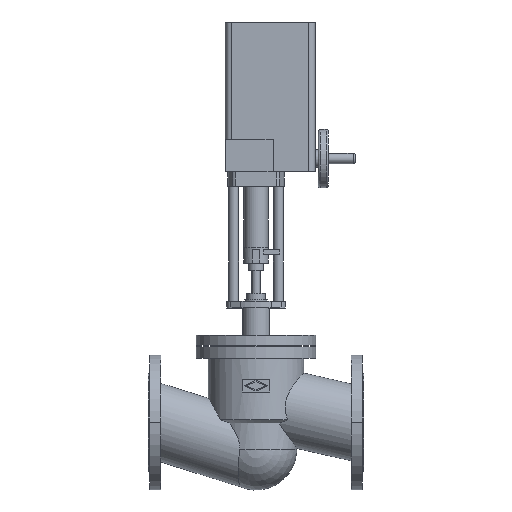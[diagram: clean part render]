
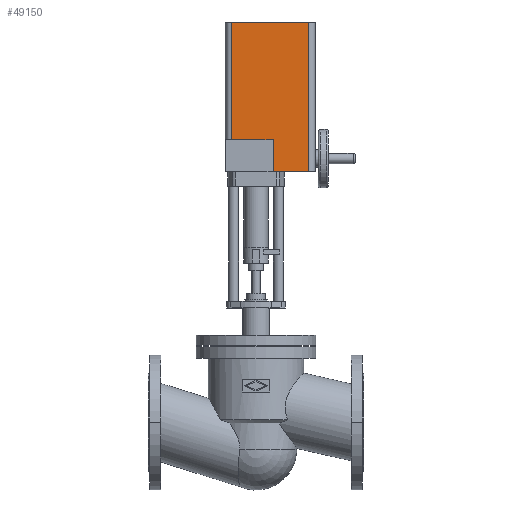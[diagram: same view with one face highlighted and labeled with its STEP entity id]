
A CAD part, top view. The second image highlights one B-rep face of the part: STEP entity #49150.
In plain terms, the highlighted planar face has unit normal (0, 0, 1).
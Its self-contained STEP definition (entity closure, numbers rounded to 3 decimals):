
#43680=CARTESIAN_POINT('',(357.6,892.5,114.));
#43690=VERTEX_POINT('',#43680);
#43720=CARTESIAN_POINT('',(185.6,892.5,114.));
#43730=DIRECTION('',(-1.,0.,0.));
#43740=VECTOR('',#43730,1.);
#43750=LINE('',#43720,#43740);
#43760=CARTESIAN_POINT('',(185.6,892.5,114.));
#43770=VERTEX_POINT('',#43760);
#43780=EDGE_CURVE('',#43690,#43770,#43750,.T.);
#48090=CARTESIAN_POINT('',(278.1,559.,114.));
#48100=VERTEX_POINT('',#48090);
#48270=CARTESIAN_POINT('',(278.1,630.5,114.));
#48280=VERTEX_POINT('',#48270);
#48310=CARTESIAN_POINT('',(278.1,559.,114.));
#48320=DIRECTION('',(0.,-1.,0.));
#48330=VECTOR('',#48320,1.);
#48340=LINE('',#48310,#48330);
#48350=EDGE_CURVE('',#48280,#48100,#48340,.T.);
#48710=CARTESIAN_POINT('',(357.6,559.,114.));
#48720=VERTEX_POINT('',#48710);
#48750=CARTESIAN_POINT('',(357.6,559.,114.));
#48760=DIRECTION('',(0.,-1.,0.));
#48770=VECTOR('',#48760,1.);
#48780=LINE('',#48750,#48770);
#48790=EDGE_CURVE('',#43690,#48720,#48780,.T.);
#48850=CARTESIAN_POINT('',(357.6,559.,114.));
#48860=DIRECTION('',(0.,0.,1.));
#48870=DIRECTION('',(1.,0.,0.));
#48880=AXIS2_PLACEMENT_3D('',#48850,#48860,#48870);
#48890=PLANE('',#48880);
#48900=CARTESIAN_POINT('',(185.6,559.,114.));
#48910=DIRECTION('',(0.,1.,0.));
#48920=VECTOR('',#48910,1.);
#48930=LINE('',#48900,#48920);
#48940=CARTESIAN_POINT('',(185.6,630.5,114.));
#48950=VERTEX_POINT('',#48940);
#48960=EDGE_CURVE('',#48950,#43770,#48930,.T.);
#48970=ORIENTED_EDGE('',*,*,#48960,.F.);
#48980=ORIENTED_EDGE('',*,*,#43780,.T.);
#48990=ORIENTED_EDGE('',*,*,#48790,.F.);
#49000=CARTESIAN_POINT('',(185.6,559.,114.));
#49010=DIRECTION('',(1.,0.,0.));
#49020=VECTOR('',#49010,1.);
#49030=LINE('',#49000,#49020);
#49040=EDGE_CURVE('',#48100,#48720,#49030,.T.);
#49050=ORIENTED_EDGE('',*,*,#49040,.T.);
#49060=ORIENTED_EDGE('',*,*,#48350,.T.);
#49070=CARTESIAN_POINT('',(298.8,630.5,114.));
#49080=DIRECTION('',(1.,0.,0.));
#49090=VECTOR('',#49080,1.);
#49100=LINE('',#49070,#49090);
#49110=EDGE_CURVE('',#48950,#48280,#49100,.T.);
#49120=ORIENTED_EDGE('',*,*,#49110,.T.);
#49130=EDGE_LOOP('',(#49120,#49060,#49050,#48990,#48980,#48970));
#49140=FACE_OUTER_BOUND('',#49130,.T.);
#49150=ADVANCED_FACE('',(#49140),#48890,.T.);
